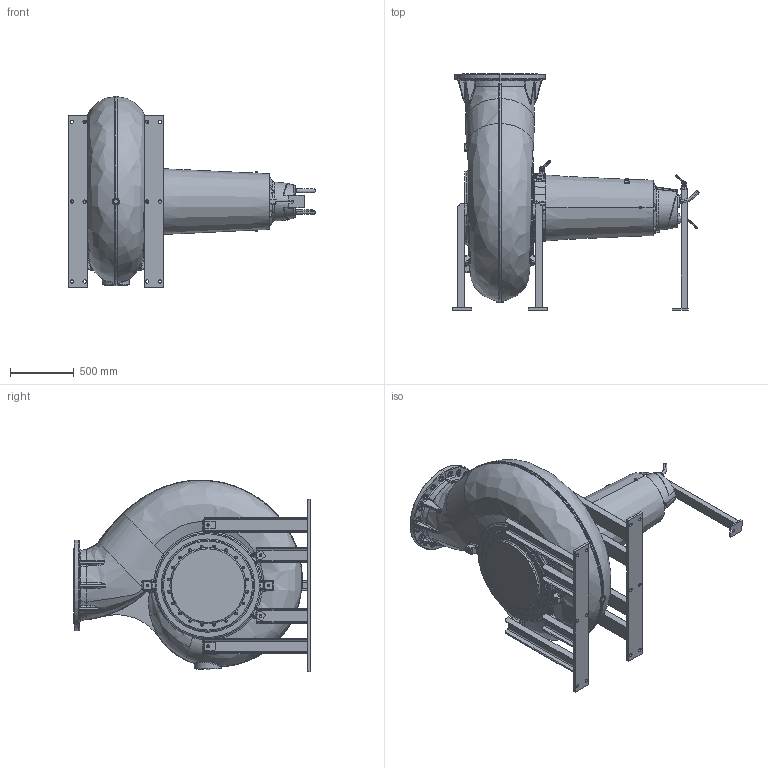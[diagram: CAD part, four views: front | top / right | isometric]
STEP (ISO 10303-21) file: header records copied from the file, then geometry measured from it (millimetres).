
FILE_DESCRIPTION (( 'STEP AP214' ), '1' );
FILE_NAME ('PE5_XFP501U-SK3_DRY HA_A_NG2.STEP', '2017-03-14T09:36:45', ( '' ), ( '' ), 'SwSTEP 2.0', 'SolidWorks 2017', '' );
FILE_SCHEMA (( 'AUTOMOTIVE_DESIGN' ));
Length unit declared in the file: millimetre
Products named in the file (1): PE5_XFP501U-SK3_DRY HA_A_NG2
Bounding box: 1930.08 x 1850 x 1500.34 mm (x, y, z)
Volume: 1009517549.9 mm3; surface area: 11248313 mm2
Topology: 6 solids, 6 shells, 2164 faces, 5409 edges, 3237 vertices
Faces by surface type: bspline 737, cylinder 561, plane 456, cone 185, torus 131, sphere 94
Entity records: 150019 total; most frequent: CARTESIAN_POINT 81568, ORIENTED_EDGE 10548, DIRECTION 7614, EDGE_CURVE 5274, VERTEX_POINT 3207, AXIS2_PLACEMENT_3D 3045, EDGE_LOOP 2341, UNCERTAINTY_MEASURE_WITH_UNIT 2172
